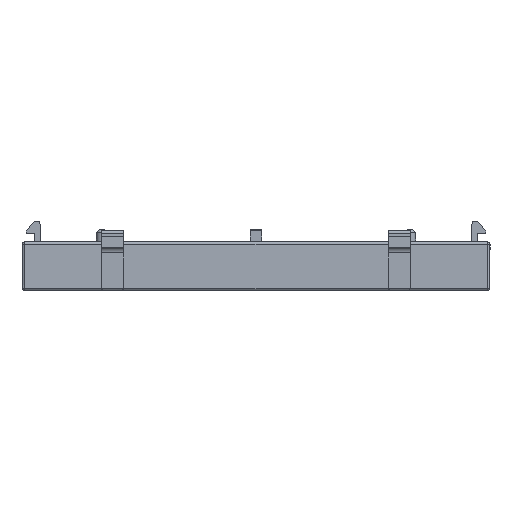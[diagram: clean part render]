
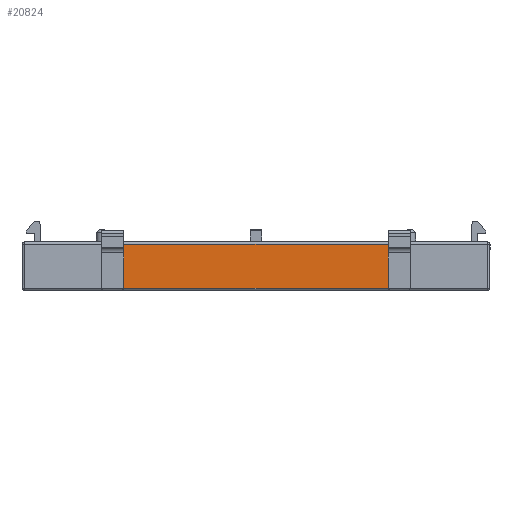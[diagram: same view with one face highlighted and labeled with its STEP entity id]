
A CAD part, front view. The second image highlights one B-rep face of the part: STEP entity #20824.
In plain terms, the highlighted planar face has unit normal (0, -1, 0.009).
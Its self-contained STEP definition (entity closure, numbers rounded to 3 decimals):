
#5186=ORIENTED_EDGE('',*,*,#9338,.F.);
#5187=ORIENTED_EDGE('',*,*,#9333,.T.);
#5188=ORIENTED_EDGE('',*,*,#9319,.T.);
#5189=ORIENTED_EDGE('',*,*,#9385,.F.);
#9319=EDGE_CURVE('',#12020,#12019,#14341,.T.);
#9333=EDGE_CURVE('',#12022,#12020,#14352,.T.);
#9338=EDGE_CURVE('',#12022,#12025,#14354,.T.);
#9385=EDGE_CURVE('',#12025,#12019,#14384,.T.);
#12019=VERTEX_POINT('',#36733);
#12020=VERTEX_POINT('',#36735);
#12022=VERTEX_POINT('',#36812);
#12025=VERTEX_POINT('',#36872);
#14341=LINE('',#36734,#16834);
#14352=LINE('',#36811,#16845);
#14354=LINE('',#36871,#16847);
#14384=LINE('',#37012,#16877);
#16834=VECTOR('',#26400,1000.);
#16845=VECTOR('',#26435,1000.);
#16847=VECTOR('',#26443,1000.);
#16877=VECTOR('',#26537,1000.);
#18129=EDGE_LOOP('',(#5186,#5187,#5188,#5189));
#19191=FACE_BOUND('',#18129,.T.);
#19946=PLANE('',#22279);
#20824=ADVANCED_FACE('',(#19191),#19946,.T.);
#22279=AXIS2_PLACEMENT_3D('',#37011,#26535,#26536);
#26400=DIRECTION('',(0.,0.009,1.));
#26435=DIRECTION('',(1.,0.,0.));
#26443=DIRECTION('',(0.,0.009,1.));
#26535=DIRECTION('',(0.,-1.,0.009));
#26536=DIRECTION('',(1.,0.,0.));
#26537=DIRECTION('',(1.,0.,0.));
#36733=CARTESIAN_POINT('',(24.436,0.073,8.405));
#36734=CARTESIAN_POINT('',(24.436,0.004,0.405));
#36735=CARTESIAN_POINT('',(24.436,0.004,0.405));
#36811=CARTESIAN_POINT('',(-23.564,0.004,0.405));
#36812=CARTESIAN_POINT('',(-23.564,0.004,0.405));
#36871=CARTESIAN_POINT('',(-23.564,0.004,0.405));
#36872=CARTESIAN_POINT('',(-23.564,0.073,8.405));
#37011=CARTESIAN_POINT('',(-42.171,0.,0.002));
#37012=CARTESIAN_POINT('',(-23.564,0.073,8.405));
